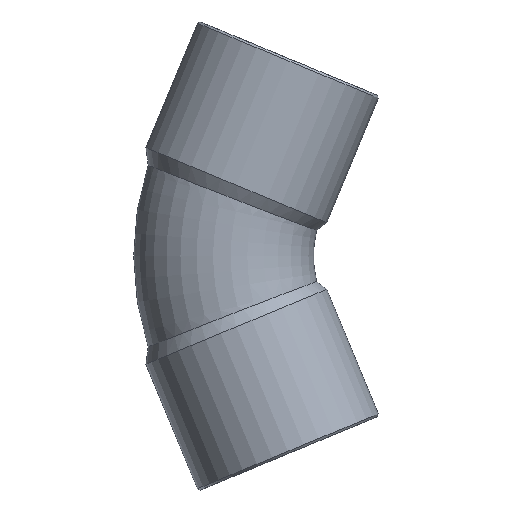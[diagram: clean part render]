
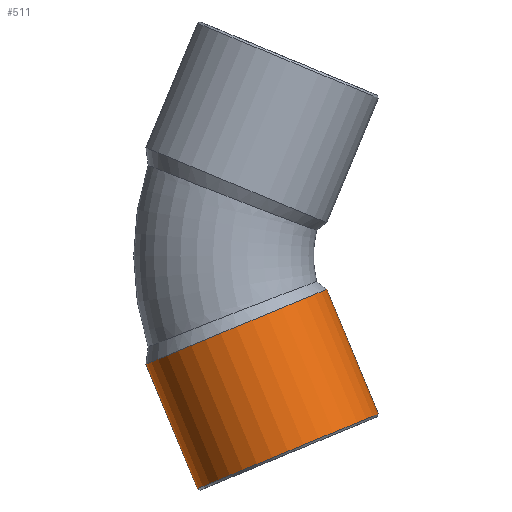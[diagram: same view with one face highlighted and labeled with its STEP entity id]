
A CAD part, front view. The second image highlights one B-rep face of the part: STEP entity #511.
In plain terms, the highlighted cylindrical face has radius 8.7 mm (diameter 17.4 mm), a partial arc.
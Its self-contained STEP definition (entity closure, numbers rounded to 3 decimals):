
#201=CARTESIAN_POINT('',(-20.479,0.,-9.623));
#202=VERTEX_POINT('',#201);
#209=CARTESIAN_POINT('',(-4.403,0.,-2.965));
#210=VERTEX_POINT('',#209);
#211=CARTESIAN_POINT('',(-12.441,0.,-6.294));
#212=DIRECTION('',(-0.383,0.,0.924));
#213=DIRECTION('',(0.924,0.0,0.383));
#214=AXIS2_PLACEMENT_3D('',#211,#212,#213);
#215=CIRCLE('',#214,8.7);
#216=EDGE_CURVE('',#202,#210,#215,.T.);
#480=CARTESIAN_POINT('',(-12.369,0.,-6.467));
#481=DIRECTION('',(0.383,0.,-0.924));
#482=DIRECTION('',(0.924,0.0,0.383));
#483=AXIS2_PLACEMENT_3D('',#480,#481,#482);
#484=CYLINDRICAL_SURFACE('',#483,8.7);
#485=CARTESIAN_POINT('',(0.184,0.,-14.04));
#486=VERTEX_POINT('',#485);
#487=CARTESIAN_POINT('',(-4.403,0.,-2.965));
#488=DIRECTION('',(0.383,0.,-0.924));
#489=VECTOR('',#488,11.988);
#490=LINE('',#487,#489);
#491=EDGE_CURVE('',#210,#486,#490,.T.);
#492=ORIENTED_EDGE('',*,*,#491,.F.);
#493=ORIENTED_EDGE('',*,*,#216,.F.);
#494=CARTESIAN_POINT('',(-15.891,0.,-20.698));
#495=VERTEX_POINT('',#494);
#496=CARTESIAN_POINT('',(-15.891,0.,-20.698));
#497=DIRECTION('',(-0.383,0.,0.924));
#498=VECTOR('',#497,11.988);
#499=LINE('',#496,#498);
#500=EDGE_CURVE('',#495,#202,#499,.T.);
#501=ORIENTED_EDGE('',*,*,#500,.F.);
#502=CARTESIAN_POINT('',(-7.854,0.,-17.369));
#503=DIRECTION('',(0.383,0.,-0.924));
#504=DIRECTION('',(0.924,0.0,0.383));
#505=AXIS2_PLACEMENT_3D('',#502,#503,#504);
#506=CIRCLE('',#505,8.7);
#507=EDGE_CURVE('',#486,#495,#506,.T.);
#508=ORIENTED_EDGE('',*,*,#507,.F.);
#509=EDGE_LOOP('',(#492,#493,#501,#508));
#510=FACE_OUTER_BOUND('',#509,.T.);
#511=ADVANCED_FACE('',(#510),#484,.T.);
